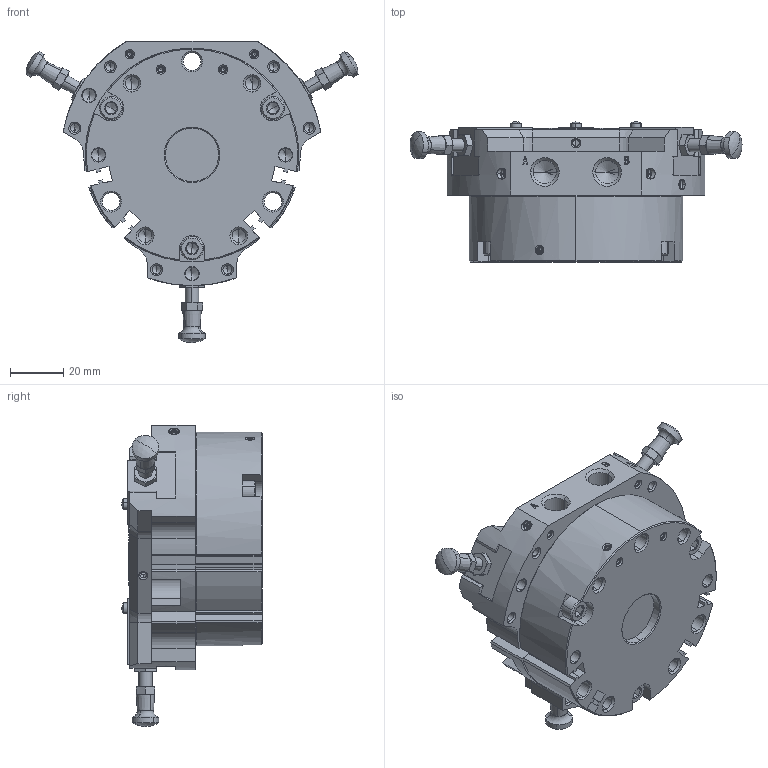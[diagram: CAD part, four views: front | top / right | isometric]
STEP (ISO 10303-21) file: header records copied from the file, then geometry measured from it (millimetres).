
FILE_DESCRIPTION (( 'STEP AP214' ), '1' );
FILE_NAME ('NTS309-QM-HCL.STEP', '2025-04-17T06:35:11', ( '' ), ( '' ), 'SwSTEP 2.0', 'SolidWorks 2022', '' );
FILE_SCHEMA (( 'AUTOMOTIVE_DESIGN' ));
Length unit declared in the file: millimetre
Products named in the file (11): MASTER JAW^HP-NTS309-QM; COVER^HP-NTS309-QM; BOLT^HP-NTS309-QM; NTS309-QM-HCL; S-SARA^HP-NTS309-QM; S-TOME2^HP-NTS309-QM; KNOCK PIN^HP-NTS309-QM; INDEX PLUNGER^HP-NTS309-QM; S-TOME1^HP-NTS309-QM; BODY^HP-NTS309-QM; REAR BODY^HP-NTS309-QM
Assembly tree (26 placements, depth 2):
  NTS309-QM-HCL
    BODY^HP-NTS309-QM
    REAR BODY^HP-NTS309-QM
    COVER^HP-NTS309-QM
    MASTER JAW^HP-NTS309-QM  x3
    BOLT^HP-NTS309-QM  x3
    S-SARA^HP-NTS309-QM  x3
    S-TOME1^HP-NTS309-QM  x7
    S-TOME2^HP-NTS309-QM
    KNOCK PIN^HP-NTS309-QM  x3
    INDEX PLUNGER^HP-NTS309-QM  x3
Bounding box: 124.32 x 52.5 x 112.8 mm (x, y, z)
Volume: 231540.4 mm3; surface area: 72240.1 mm2
Topology: 23 solids, 35 shells, 2243 faces, 5987 edges, 3819 vertices
Faces by surface type: plane 1352, cone 403, cylinder 309, bspline 143, sphere 24, torus 12
Entity records: 64369 total; most frequent: CARTESIAN_POINT 17916, ORIENTED_EDGE 9692, DIRECTION 8373, EDGE_CURVE 4847, VECTOR 3761, LINE 3761, VERTEX_POINT 3161, AXIS2_PLACEMENT_3D 2306
